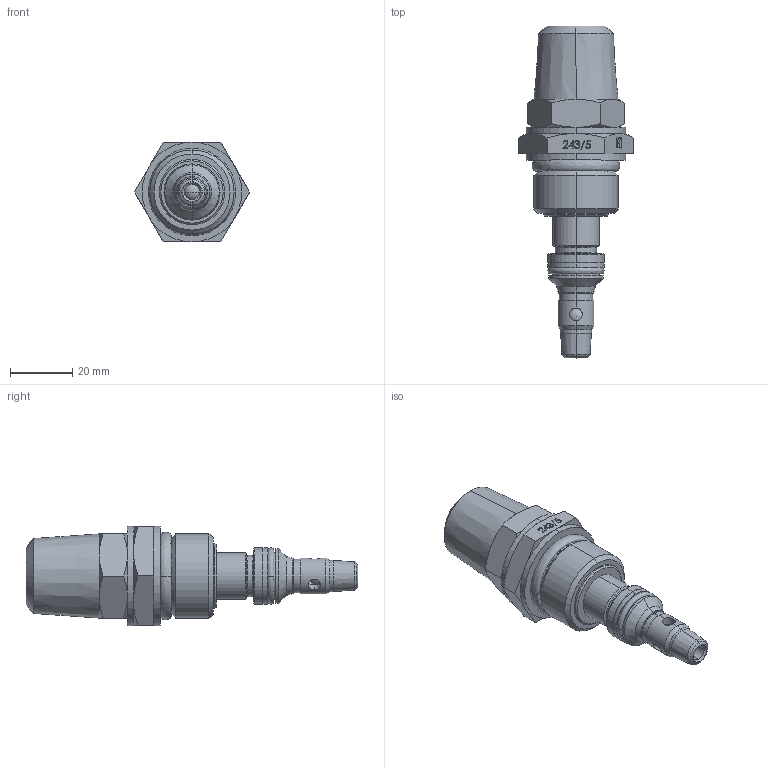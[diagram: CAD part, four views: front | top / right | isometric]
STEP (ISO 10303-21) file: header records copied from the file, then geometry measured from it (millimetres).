
FILE_DESCRIPTION (( 'STEP AP214' ), '1' );
FILE_NAME ('2243-5-34sf.STEP', '2014-03-13T21:32:08', ( '' ), ( '' ), 'SwSTEP 2.0', 'SolidWorks 2012', '' );
FILE_SCHEMA (( 'AUTOMOTIVE_DESIGN' ));
Length unit declared in the file: millimetre
Products named in the file (1): 2243-5-34sf
Bounding box: 36.95 x 106.5 x 32 mm (x, y, z)
Surface area: 11725.6 mm2 (no closed solid volume)
Topology: 0 solids, 11 shells, 215 faces, 632 edges, 415 vertices
Faces by surface type: plane 77, cylinder 44, cone 42, bspline 38, torus 12, sphere 2
Entity records: 12873 total; most frequent: CARTESIAN_POINT 5155, ORIENTED_EDGE 1072, DIRECTION 1005, EDGE_CURVE 627, VERTEX_POINT 412, AXIS2_PLACEMENT_3D 340, LINE 325, VECTOR 325
